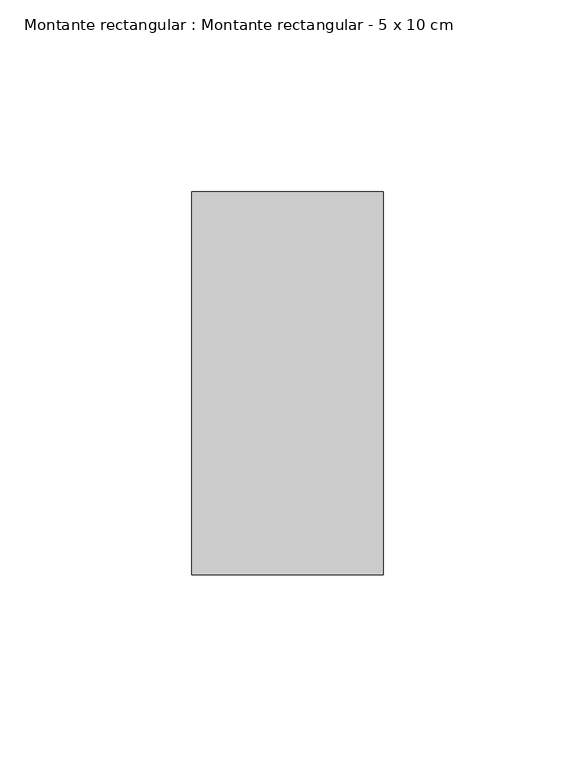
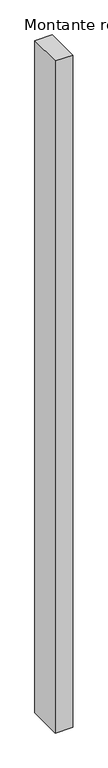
"""IFC4 building model written with IfcOpenShell, lengths in millimetres: member geometry, Montante rectangular : Montante rectangular - 5 x 10 cm."""

from ifc_helpers import new_model, si_unit, frame, origin, place, context, project, spatial, polyline, outline, extrude, source, transform, mapped, element, save


def montante_rectangular_montante_rectangular_5_x_10_cm_17ed3d15(model_context):
    return source(origin(), model_context, "Body", "SweptSolid", [
        extrude(outline(polyline([(25.0, 50.0), (25.0, -50.0), (-25.0, -50.0), (-25.0, 50.0), (25.0, 50.0)])), frame((0.0, 0.0, -2025.0), z_axis=(0.0, 0.0, 1.0), x_axis=(1.0, 0.0, 0.0)), (0.0, 0.0, 1.0), 2025.0),
    ])


if __name__ == "__main__":
    model = new_model("IFC4")
    model_context = context("Model", 3, world=origin())
    ifc_project = project(units=[si_unit("LENGTHUNIT", "METRE", prefix="MILLI")], contexts=[model_context])
    site = spatial("IfcSite", under=ifc_project)
    building = spatial("IfcBuilding", under=site)
    placement = place(None, origin())
    montante_rectangular_montante_rectangular_5_x_10_cm_shape = montante_rectangular_montante_rectangular_5_x_10_cm_17ed3d15(model_context)
    element("IfcMember", 1, ObjectType="Montante rectangular : Montante rectangular - 5 x 10 cm", at=placement, inside=building, context=model_context, shape_type="MappedRepresentation", body=[
        mapped(montante_rectangular_montante_rectangular_5_x_10_cm_shape, transform((0.0, 0.0, 0.0), x_axis=(1.0, 0.0, 0.0), y_axis=(0.0, 1.0, 0.0), z_axis=(0.0, 0.0, 1.0))),
    ])
    save(model, "model.ifc")
